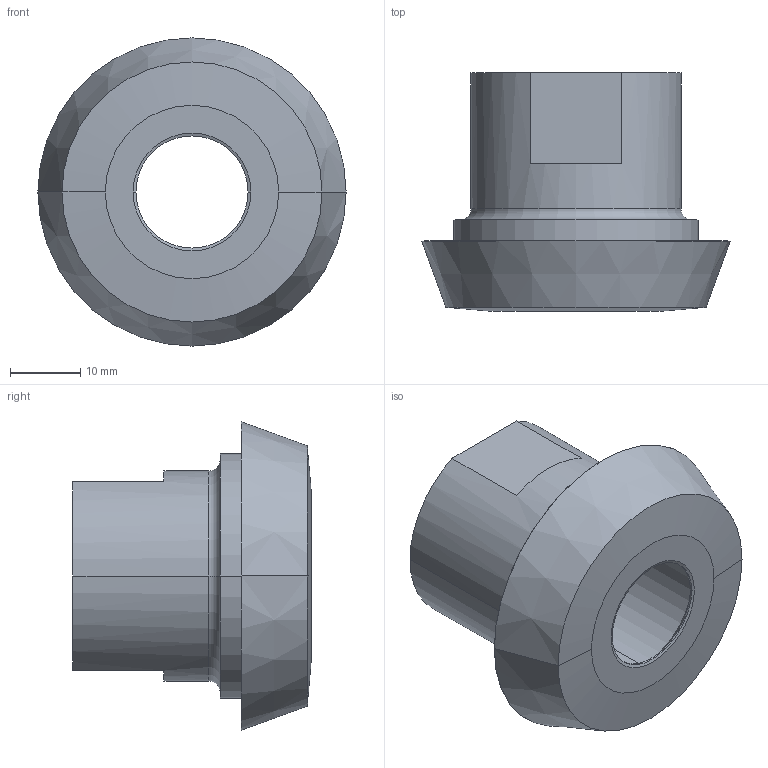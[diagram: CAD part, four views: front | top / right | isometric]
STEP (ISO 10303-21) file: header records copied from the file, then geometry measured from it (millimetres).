
FILE_DESCRIPTION((''),'2;1');
FILE_NAME('DN25_DIN11851','2013-06-24T',('moal'),(''),'PRO/ENGINEER BY PARAMETRIC TECHNOLOGY CORPORATION, 2005110','PRO/ENGINEER BY PARAMETRIC TECHNOLOGY CORPORATION, 2005110','');
FILE_SCHEMA(('CONFIG_CONTROL_DESIGN'));
Length unit declared in the file: millimetre
Products named in the file (1): DN25_DIN11851
Bounding box: 44 x 34 x 44 mm (x, y, z)
Volume: 19495.7 mm3; surface area: 7724.7 mm2
Topology: 1 solids, 1 shells, 31 faces, 66 edges, 40 vertices
Faces by surface type: cone 10, cylinder 10, plane 9, torus 2
Entity records: 884 total; most frequent: DIRECTION 166, CARTESIAN_POINT 137, ORIENTED_EDGE 132, AXIS2_PLACEMENT_3D 69, EDGE_CURVE 66, VERTEX_POINT 40, CIRCLE 38, EDGE_LOOP 36
